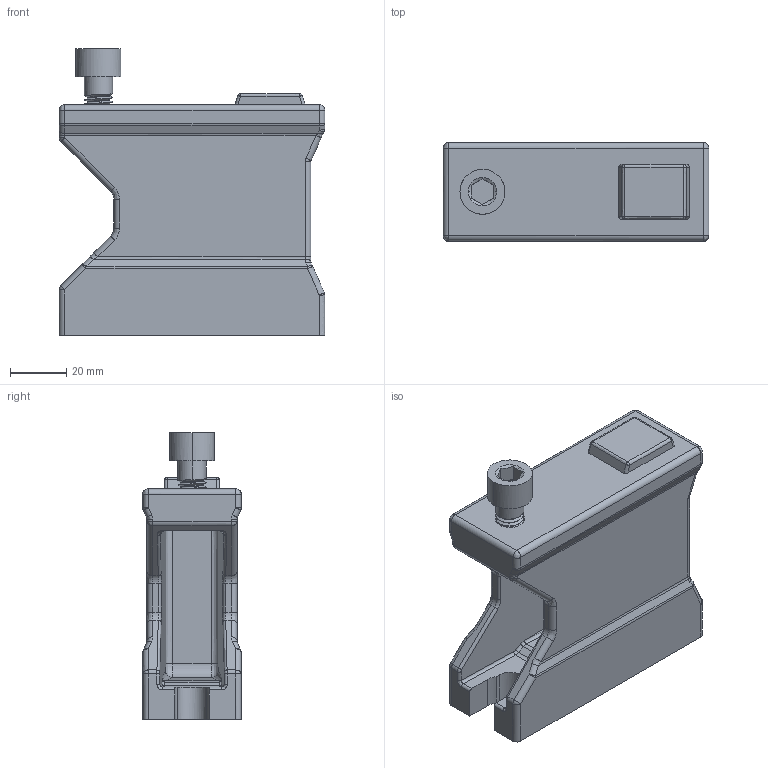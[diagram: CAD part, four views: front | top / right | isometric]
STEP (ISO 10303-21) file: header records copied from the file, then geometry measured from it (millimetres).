
FILE_DESCRIPTION( ( 'STEP AP214' ), '1' );
FILE_NAME( 'X:/CAD_Daten_Platzhalter/BAS u BSP/BASO/BASO.stp', ' ', ( ' ' ), ( ' ' ), 'PSStep 11.0', ' ', ' ' );
FILE_SCHEMA( ( 'AUTOMOTIVE_DESIGN { 1 0 10303 214 1 1 1 1 }' ) );
Length unit declared in the file: metre
Products named in the file (3): 1; 2; 3
Bounding box: 94.5 x 35 x 102 mm (x, y, z)
Surface area: 40372.1 mm2 (no closed solid volume)
Topology: 0 solids, 252 shells, 252 faces, 1139 edges, 1135 vertices
Faces by surface type: bspline 252
Entity records: 22182 total; most frequent: CARTESIAN_POINT 15037, ORIENTED_EDGE 1135, EDGE_CURVE 1135, VERTEX_POINT 1135, B_SPLINE_CURVE_WITH_KNOTS 833, FACE_BOUND 258, EDGE_LOOP 258, STYLED_ITEM 252
